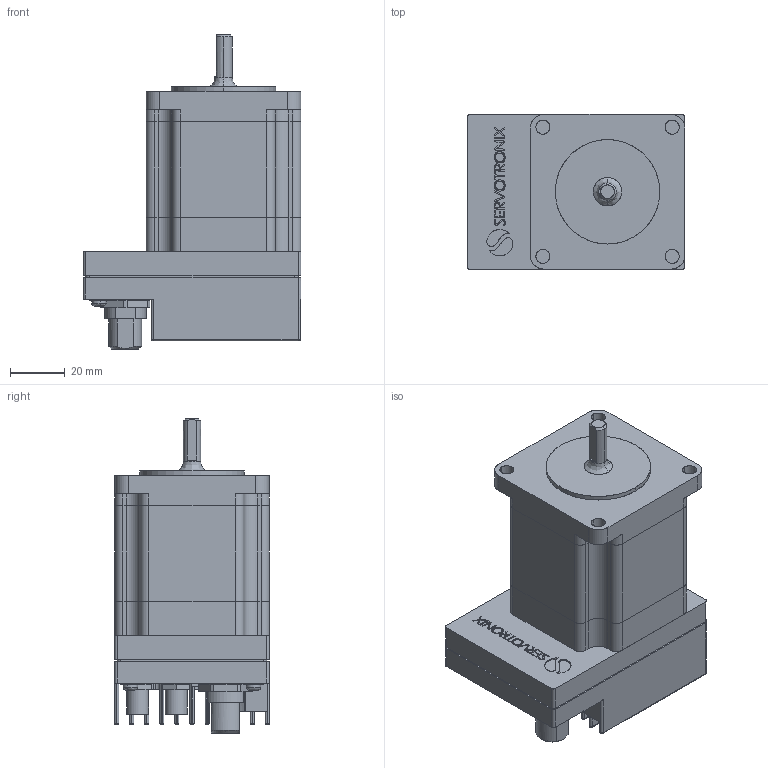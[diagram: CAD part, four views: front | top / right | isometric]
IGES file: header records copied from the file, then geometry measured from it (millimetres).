
Start section: SolidWorks IGES file using analytic representation for surfaces
Global section: file name: C:\Work\Sevotronix\NEMA 23 IP 65\CAD\Model and Drawing for web site\stepIM_IST-23S16CO10-0.IGS; native system: SolidWorks 2013; preprocessor: SolidWorks 2013; author: owner; date: 160403.133425; units: millimetre
Bounding box: 79.4 x 56.4 x 114.6 mm (x, y, z)
Surface area: 79196.8 mm2 (no closed solid volume)
Topology: 0 solids, 0 shells, 1203 faces, 14378 edges, 14378 vertices
Faces by surface type: bspline 646, revolution 557
